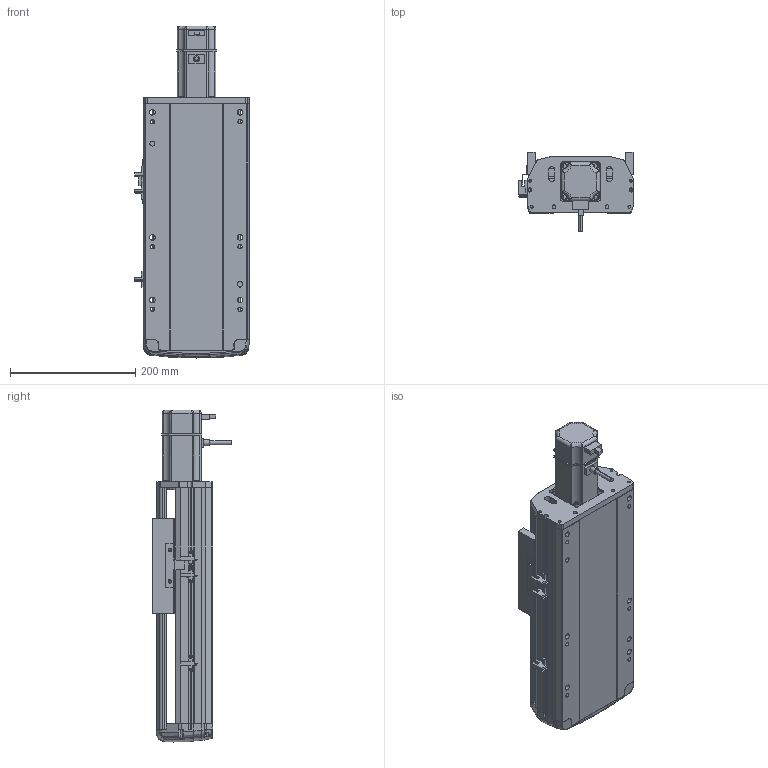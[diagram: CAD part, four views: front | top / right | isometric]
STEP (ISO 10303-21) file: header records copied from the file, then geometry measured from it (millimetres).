
FILE_DESCRIPTION (( 'STEP AP214' ), '1' );
FILE_NAME ('RTH17-XX-150-E-M40-C4（方程式）.STEP', '2025-10-24T05:37:29', ( '' ), ( '' ), 'SwSTEP 2.0', 'SolidWorks 2018', '' );
FILE_SCHEMA (( 'AUTOMOTIVE_DESIGN' ));
Length unit declared in the file: millimetre
Products named in the file (9): RTH17-XX-150-E-M40-C4（方程式）; N_RTH17-E-007上盖^RTH17-XX-XX-E-M40-C4（方程式）; N_OMRON EE-SX672 換覜ん^RTH17-XX-XX-E-M40-C4ㄗ源最宒ㄘ; N_RTH17-E-011底座^RTH17-XX-XX-E-M40-C4（方程式）; N_RTH17-GY-001P^RTH17-XX-XX-E-M40-C4（方程式）; N_RTH-BL-012 感应片(外置)^RTH17-XX-XX-E-M40-C4（方程式）; N_M40^RTH17-XX-XX-E-M40-C4（方程式）; N_RTH17-E-008-P40电机板^RTH17-XX-XX-E-M40-C4（方程式）; N_RTH17-E-004丝杆螺母连接座^RTH17-XX-XX-E-M40-C4（方程式）
Assembly tree (10 placements, depth 2):
  RTH17-XX-150-E-M40-C4（方程式）
    N_RTH17-E-011底座^RTH17-XX-XX-E-M40-C4（方程式）
    N_RTH17-E-007上盖^RTH17-XX-XX-E-M40-C4（方程式）
    N_RTH17-E-008-P40电机板^RTH17-XX-XX-E-M40-C4（方程式）
    N_OMRON EE-SX672 換覜ん^RTH17-XX-XX-E-M40-C4ㄗ源最宒ㄘ  x3
    N_RTH-BL-012 感应片(外置)^RTH17-XX-XX-E-M40-C4（方程式）
    N_RTH17-E-004丝杆螺母连接座^RTH17-XX-XX-E-M40-C4（方程式）
    N_RTH17-GY-001P^RTH17-XX-XX-E-M40-C4（方程式）
    N_M40^RTH17-XX-XX-E-M40-C4（方程式）
Bounding box: 183.5 x 127 x 530.77 mm (x, y, z)
Volume: 3953448.7 mm3; surface area: 575498.7 mm2
Topology: 9 solids, 11 shells, 1633 faces, 4549 edges, 2966 vertices
Faces by surface type: plane 823, cylinder 443, bspline 330, cone 28, torus 9
Entity records: 47261 total; most frequent: CARTESIAN_POINT 19016, ORIENTED_EDGE 6122, DIRECTION 5085, EDGE_CURVE 3065, VERTEX_POINT 2002, LINE 1741, VECTOR 1741, AXIS2_PLACEMENT_3D 1672
